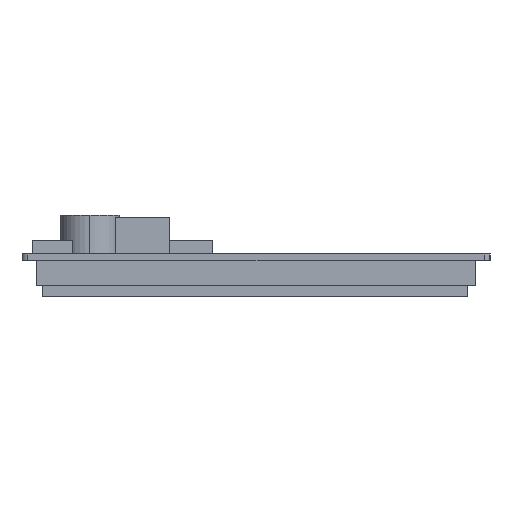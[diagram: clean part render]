
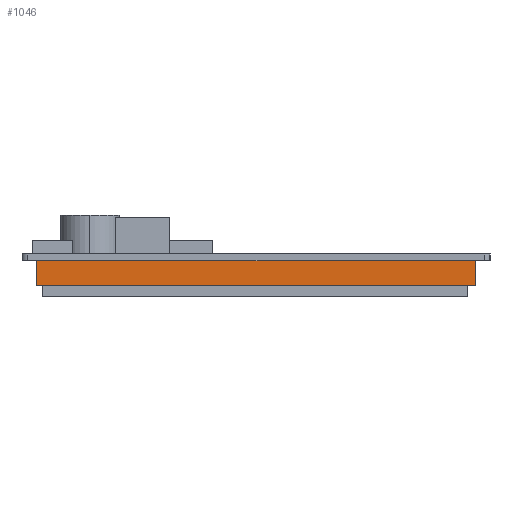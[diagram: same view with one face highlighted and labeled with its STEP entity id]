
A CAD part, left-side view. The second image highlights one B-rep face of the part: STEP entity #1046.
In plain terms, the highlighted planar face has unit normal (-1, 0, 0).
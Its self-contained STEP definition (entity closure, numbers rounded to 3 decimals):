
#211=DIRECTION('',(0.,1.,0.));
#212=VECTOR('',#211,65.9);
#213=CARTESIAN_POINT('',(-39.45,-35.15,-1.));
#214=LINE('',#213,#212);
#303=DIRECTION('',(0.,0.,-1.));
#304=VECTOR('',#303,3.75);
#305=CARTESIAN_POINT('',(-39.45,-35.15,-1.));
#306=LINE('',#305,#304);
#315=DIRECTION('',(0.,0.,-1.));
#316=VECTOR('',#315,3.75);
#317=CARTESIAN_POINT('',(-39.45,30.75,-1.));
#318=LINE('',#317,#316);
#319=DIRECTION('',(0.,1.,0.));
#320=VECTOR('',#319,65.9);
#321=CARTESIAN_POINT('',(-39.45,-35.15,-4.75));
#322=LINE('',#321,#320);
#713=CARTESIAN_POINT('',(-39.45,-35.15,-4.75));
#714=CARTESIAN_POINT('',(-39.45,30.75,-4.75));
#715=VERTEX_POINT('',#713);
#716=VERTEX_POINT('',#714);
#721=CARTESIAN_POINT('',(-39.45,-35.15,-1.));
#722=CARTESIAN_POINT('',(-39.45,30.75,-1.));
#723=VERTEX_POINT('',#721);
#724=VERTEX_POINT('',#722);
#1032=CARTESIAN_POINT('',(-39.45,-35.15,-1.));
#1033=DIRECTION('',(-1.,0.,0.));
#1034=DIRECTION('',(0.,1.,0.));
#1035=AXIS2_PLACEMENT_3D('',#1032,#1033,#1034);
#1036=PLANE('',#1035);
#1037=ORIENTED_EDGE('',*,*,#897,.F.);
#1039=ORIENTED_EDGE('',*,*,#1038,.T.);
#1041=ORIENTED_EDGE('',*,*,#1040,.T.);
#1043=ORIENTED_EDGE('',*,*,#1042,.F.);
#1044=EDGE_LOOP('',(#1037,#1039,#1041,#1043));
#1045=FACE_OUTER_BOUND('',#1044,.F.);
#897=EDGE_CURVE('',#723,#724,#214,.T.);
#1038=EDGE_CURVE('',#723,#715,#306,.T.);
#1040=EDGE_CURVE('',#715,#716,#322,.T.);
#1042=EDGE_CURVE('',#724,#716,#318,.T.);
#1046=ADVANCED_FACE('',(#1045),#1036,.T.);
